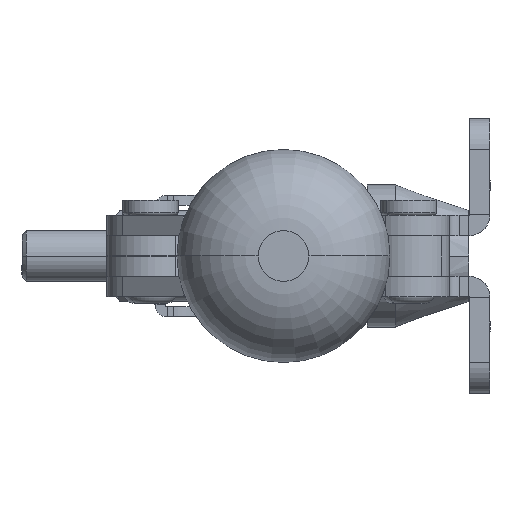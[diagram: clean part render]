
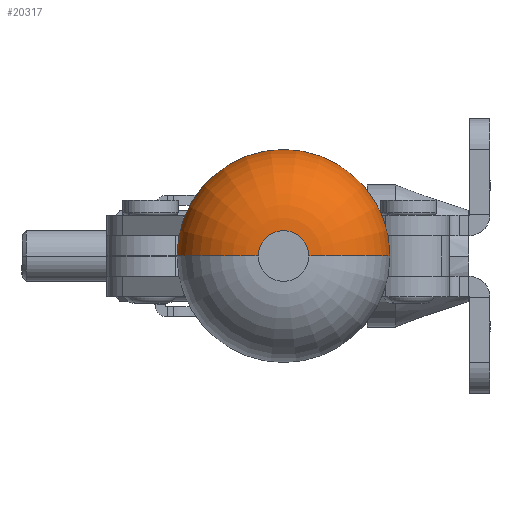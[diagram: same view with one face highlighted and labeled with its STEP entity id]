
A CAD part, left-side view. The second image highlights one B-rep face of the part: STEP entity #20317.
In plain terms, the highlighted toroidal (fillet/blend) face has major radius 2.495 mm and minor radius 8 mm.
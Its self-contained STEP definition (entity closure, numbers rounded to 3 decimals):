
#370 = FACE_OUTER_BOUND ( 'NONE', #7452, .T. ) ;
#849 = CARTESIAN_POINT ( 'NONE',  ( -2.495, 0., 0. ) ) ;
#1387 = DIRECTION ( 'NONE',  ( 0., 0., 1. ) ) ;
#2058 = CARTESIAN_POINT ( 'NONE',  ( 2.495, 0., 8. ) ) ;
#2397 = CIRCLE ( 'NONE', #21127, 8. ) ;
#2553 = DIRECTION ( 'NONE',  ( 0., 0., 1. ) ) ;
#3276 = ORIENTED_EDGE ( 'NONE', *, *, #10105, .T. ) ;
#3441 = CARTESIAN_POINT ( 'NONE',  ( -2.495, 0., 8. ) ) ;
#3877 = CIRCLE ( 'NONE', #8589, 8. ) ;
#5266 = CARTESIAN_POINT ( 'NONE',  ( 10.491, 0., 8.251 ) ) ;
#5372 = DIRECTION ( 'NONE',  ( 1., 0., 0. ) ) ;
#5420 = CARTESIAN_POINT ( 'NONE',  ( 0., 0., 8.251 ) ) ;
#7452 = EDGE_LOOP ( 'NONE', ( #21576, #15240, #3276, #18616 ) ) ;
#7473 = DIRECTION ( 'NONE',  ( 0., 0., -1. ) ) ;
#8412 = AXIS2_PLACEMENT_3D ( 'NONE', #11729, #2553, #18921 ) ;
#8589 = AXIS2_PLACEMENT_3D ( 'NONE', #2058, #16498, #7473 ) ;
#9472 = CIRCLE ( 'NONE', #14544, 10.491 ) ;
#10105 = EDGE_CURVE ( 'NONE', #19310, #11006, #3877, .T. ) ;
#10722 = TOROIDAL_SURFACE ( 'NONE', #8412, 2.495, 8. ) ;
#11006 = VERTEX_POINT ( 'NONE', #5266 ) ;
#11729 = CARTESIAN_POINT ( 'NONE',  ( 0., 0., 8. ) ) ;
#12703 = CARTESIAN_POINT ( 'NONE',  ( -10.491, 0., 8.251 ) ) ;
#13155 = EDGE_CURVE ( 'NONE', #16220, #17310, #2397, .T. ) ;
#13726 = EDGE_CURVE ( 'NONE', #19310, #16220, #14134, .T. ) ;
#13993 = DIRECTION ( 'NONE',  ( 0., 1., 0. ) ) ;
#14134 = CIRCLE ( 'NONE', #19192, 2.495 ) ;
#14508 = EDGE_CURVE ( 'NONE', #17310, #11006, #9472, .T. ) ;
#14544 = AXIS2_PLACEMENT_3D ( 'NONE', #5420, #1387, #14588 ) ;
#14588 = DIRECTION ( 'NONE',  ( 1., 0., 0. ) ) ;
#15240 = ORIENTED_EDGE ( 'NONE', *, *, #13726, .F. ) ;
#16220 = VERTEX_POINT ( 'NONE', #849 ) ;
#16498 = DIRECTION ( 'NONE',  ( 0., -1., 0. ) ) ;
#17310 = VERTEX_POINT ( 'NONE', #12703 ) ;
#18312 = DIRECTION ( 'NONE',  ( 0., 0., -1. ) ) ;
#18616 = ORIENTED_EDGE ( 'NONE', *, *, #14508, .F. ) ;
#18921 = DIRECTION ( 'NONE',  ( 1., 0., 0. ) ) ;
#19192 = AXIS2_PLACEMENT_3D ( 'NONE', #22323, #18312, #5372 ) ;
#19310 = VERTEX_POINT ( 'NONE', #23502 ) ;
#20317 = ADVANCED_FACE ( 'NONE', ( #370 ), #10722, .T. ) ;
#21127 = AXIS2_PLACEMENT_3D ( 'NONE', #3441, #13993, #23819 ) ;
#21576 = ORIENTED_EDGE ( 'NONE', *, *, #13155, .F. ) ;
#22323 = CARTESIAN_POINT ( 'NONE',  ( 0., 0., 0. ) ) ;
#23502 = CARTESIAN_POINT ( 'NONE',  ( 2.495, 0., 0. ) ) ;
#23819 = DIRECTION ( 'NONE',  ( -1., 0., 0. ) ) ;
